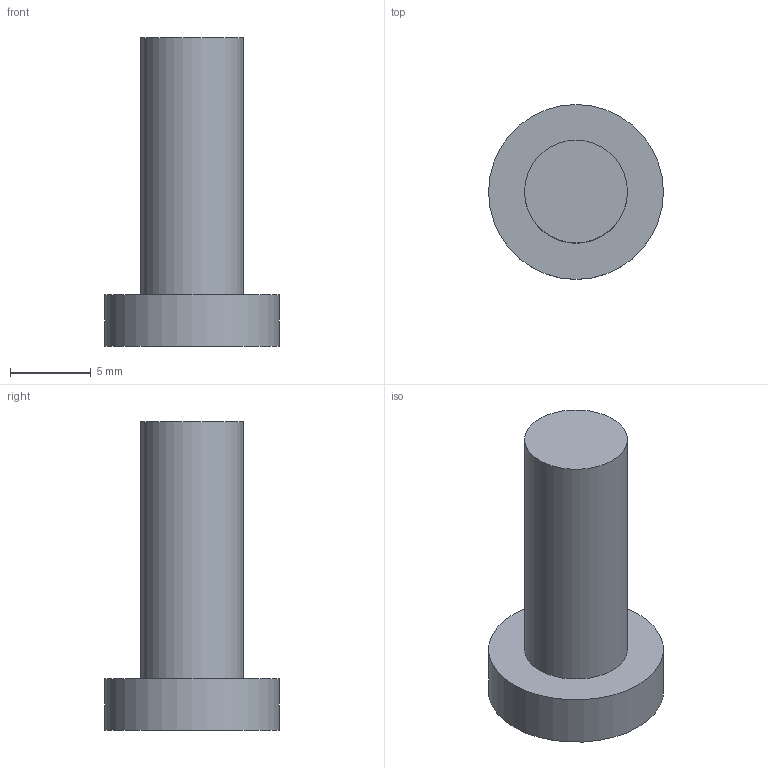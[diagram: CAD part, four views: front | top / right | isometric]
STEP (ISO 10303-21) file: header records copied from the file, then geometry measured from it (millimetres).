
FILE_DESCRIPTION(('Open CASCADE Model'),'2;1');
FILE_NAME('Open CASCADE Shape Model','2026-10-30T11:34:50',('Author'),( 'Open CASCADE'),'Open CASCADE STEP processor 7.9','Open CASCADE 7.9' ,'Unknown');
FILE_SCHEMA(('AUTOMOTIVE_DESIGN { 1 0 10303 214 1 1 1 1 }'));
Length unit declared in the file: millimetre
Products named in the file (1): Open CASCADE STEP translator 7.9 7
Bounding box: 10.8 x 10.8 x 19.07 mm (x, y, z)
Volume: 774.1 mm3; surface area: 630.5 mm2
Topology: 1 solids, 1 shells, 12 faces, 24 edges, 16 vertices
Faces by surface type: plane 10, cylinder 2
Full cylindrical faces by diameter (mm): 6.35 x1, 10.8 x1
Entity records: 622 total; most frequent: CARTESIAN_POINT 113, DIRECTION 90, LINE 52, VECTOR 52, ORIENTED_EDGE 48, PCURVE 48, DEFINITIONAL_REPRESENTATION 48, EDGE_CURVE 24
